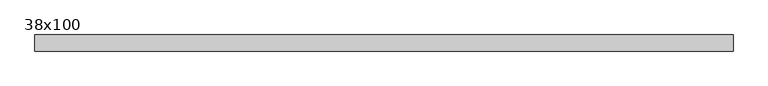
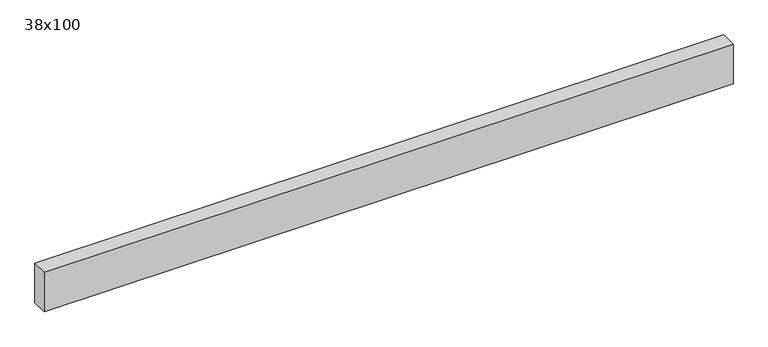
"""IFC4 building model written with IfcOpenShell, lengths in millimetres: beam geometry, Poutre - Bois de construction de dimensions courantes : 38x100."""

from ifc_helpers import new_model, si_unit, frame, origin, place, context, project, spatial, polyline, outline, extrude, source, transform, mapped, element, save


def beam_38x100_0c0302b2(model_context):
    return source(origin(), model_context, "Body", "SweptSolid", [
        extrude(outline(polyline([(793.5, 19.05), (793.5, -19.05), (-854.5, -19.05), (-854.5, 19.05), (793.5, 19.05)])), frame((0.0, 0.0, -50.0), z_axis=(0.0, 0.0, 1.0), x_axis=(1.0, 0.0, 0.0)), (0.0, 0.0, 1.0), 100.0),
    ])


if __name__ == "__main__":
    model = new_model("IFC4")
    model_context = context("Model", 3, world=origin())
    ifc_project = project(units=[si_unit("LENGTHUNIT", "METRE", prefix="MILLI")], contexts=[model_context])
    site = spatial("IfcSite", under=ifc_project)
    building = spatial("IfcBuilding", under=site)
    placement = place(None, origin())
    beam_38x100_shape = beam_38x100_0c0302b2(model_context)
    element("IfcBeam", 1, ObjectType="Poutre - Bois de construction de dimensions courantes : 38x100", at=placement, inside=building, context=model_context, shape_type="MappedRepresentation", body=[
        mapped(beam_38x100_shape, transform((0.0, 0.0, 0.0), x_axis=(1.0, 0.0, 0.0), y_axis=(0.0, 1.0, 0.0), z_axis=(0.0, 0.0, 1.0))),
    ])
    save(model, "model.ifc")
